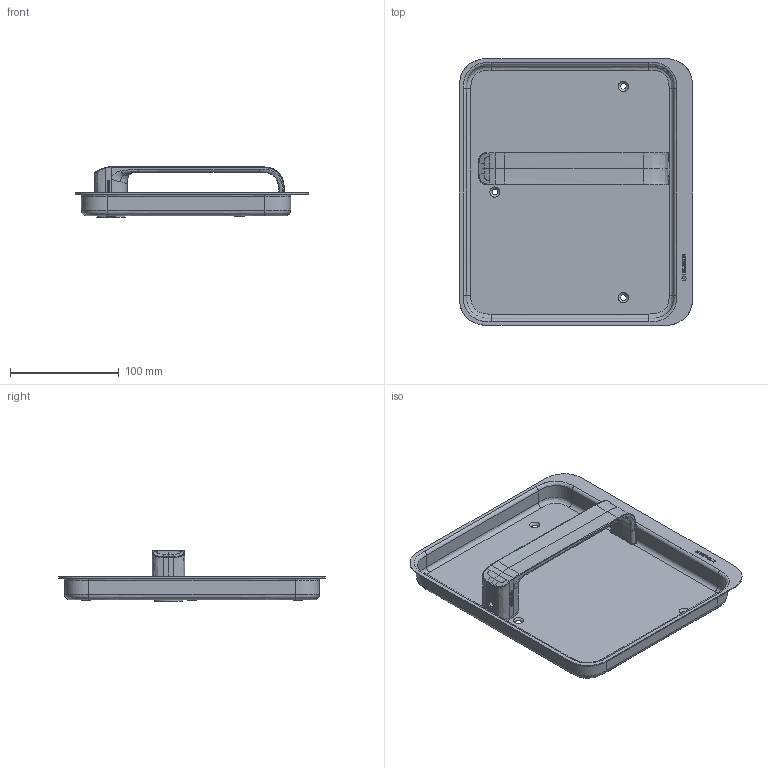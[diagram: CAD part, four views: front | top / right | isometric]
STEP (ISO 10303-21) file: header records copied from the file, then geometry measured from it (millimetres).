
FILE_DESCRIPTION(/* description */ (''),/* implementation_level */ '2;1');
FILE_NAME(/* name */ 'C:\Users\gm\Desktop\Muschel S9.20.D4.stp',/* time_stamp */ '2020-09-24T16:48:38+02:00',/* author */ ('gm'),/* organization */ (''),/* preprocessor_version */ 'ST-DEVELOPER v16.5',/* originating_system */ 'Autodesk Inventor 2017',/* authorisation */ '');
FILE_SCHEMA (('AUTOMOTIVE_DESIGN { 1 0 10303 214 3 1 1 }'));
Length unit declared in the file: millimetre
Products named in the file (1): Muschel S9.20.D4
Bounding box: 214 x 245 x 47.34 mm (x, y, z)
Volume: 118818.1 mm3; surface area: 153622.4 mm2
Topology: 1 solids, 2 shells, 567 faces, 1488 edges, 969 vertices
Faces by surface type: plane 281, bspline 244, cylinder 24, cone 18
Full cylindrical faces by diameter (mm): 1.7 x2, 4.917 x1, 14.2 x1, 16 x3, 18 x1, 19 x1, 19.1 x1, 23 x1, 23.2 x1, 24 x1, 25 x1, 26 x1, 28 x1, 28.6 x1
Entity records: 29062 total; most frequent: CARTESIAN_POINT 16188, ORIENTED_EDGE 2888, DIRECTION 1781, EDGE_CURVE 1444, VERTEX_POINT 960, LINE 803, VECTOR 803, EDGE_LOOP 662
